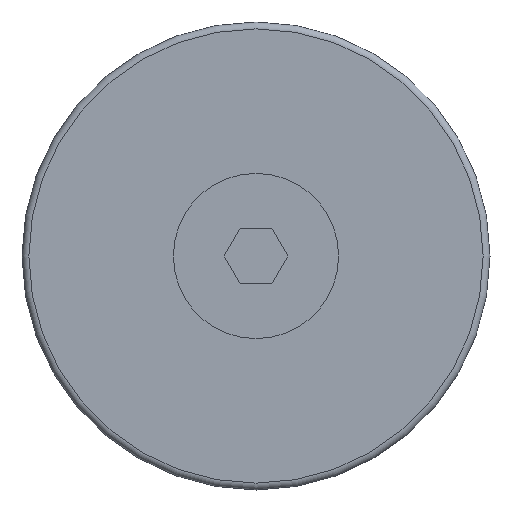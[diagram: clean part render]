
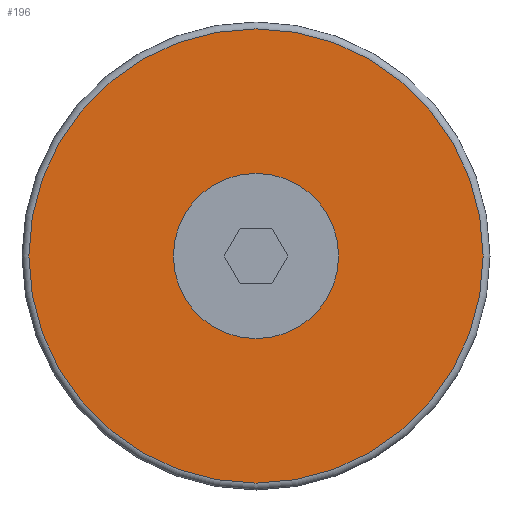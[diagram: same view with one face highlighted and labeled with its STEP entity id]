
A CAD part, front view. The second image highlights one B-rep face of the part: STEP entity #196.
In plain terms, the highlighted planar face has unit normal (0, -1, 0).
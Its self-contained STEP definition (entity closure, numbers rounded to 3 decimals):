
#196=ADVANCED_FACE('',(#293,#294),#295,.F.);
#293=FACE_BOUND('',#432,.T.);
#294=FACE_OUTER_BOUND('',#433,.T.);
#295=PLANE('',#434);
#432=EDGE_LOOP('',(#682));
#433=EDGE_LOOP('',(#683));
#434=AXIS2_PLACEMENT_3D('',#684,#685,#686);
#682=ORIENTED_EDGE('',*,*,#967,.F.);
#683=ORIENTED_EDGE('',*,*,#966,.T.);
#684=CARTESIAN_POINT('',(-17.75,-20.5,0.));
#685=DIRECTION('',(0.0,1.0,0.0));
#686=DIRECTION('',(0.0,0.0,1.0));
#966=EDGE_CURVE('',#1120,#1120,#1121,.T.);
#967=EDGE_CURVE('',#1122,#1122,#1123,.T.);
#1120=VERTEX_POINT('',#1348);
#1121=CIRCLE('',#1349,16.5);
#1122=VERTEX_POINT('',#1350);
#1123=CIRCLE('',#1351,6.0);
#1348=CARTESIAN_POINT('',(-1.25,-20.5,-16.5));
#1349=AXIS2_PLACEMENT_3D('',#1686,#1687,#1688);
#1350=CARTESIAN_POINT('',(-1.25,-20.5,-6.0));
#1351=AXIS2_PLACEMENT_3D('',#1689,#1690,#1691);
#1686=CARTESIAN_POINT('',(-1.25,-20.5,0.));
#1687=DIRECTION('',(0.0,-1.0,0.0));
#1688=DIRECTION('',(0.0,0.0,-1.0));
#1689=CARTESIAN_POINT('',(-1.25,-20.5,0.));
#1690=DIRECTION('',(0.0,-1.0,0.0));
#1691=DIRECTION('',(0.0,0.0,-1.0));
